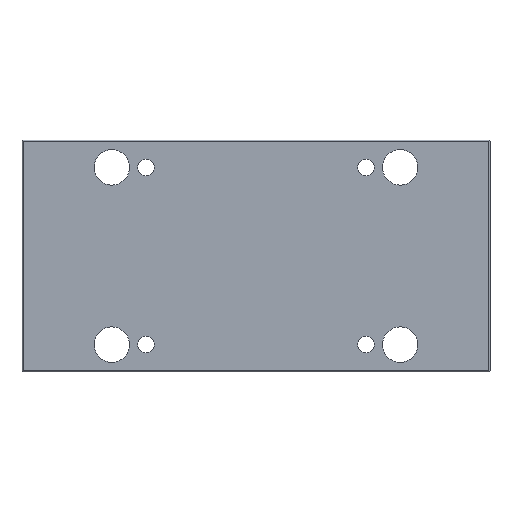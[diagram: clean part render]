
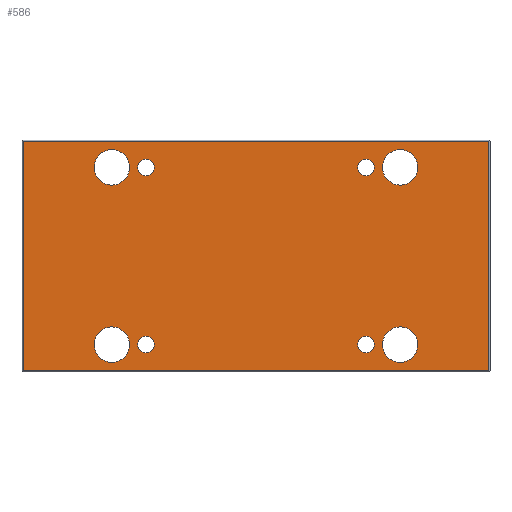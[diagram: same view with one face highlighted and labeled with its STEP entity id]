
A CAD part, front view. The second image highlights one B-rep face of the part: STEP entity #586.
In plain terms, the highlighted planar face has unit normal (0, -1, 0).
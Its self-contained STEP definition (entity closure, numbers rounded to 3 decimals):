
#40=CIRCLE('',#642,7.);
#41=CIRCLE('',#643,7.);
#42=CIRCLE('',#644,7.);
#43=CIRCLE('',#645,7.);
#44=CIRCLE('',#646,15.);
#45=CIRCLE('',#647,15.);
#46=CIRCLE('',#648,15.);
#47=CIRCLE('',#649,15.);
#108=ORIENTED_EDGE('',*,*,#244,.F.);
#109=ORIENTED_EDGE('',*,*,#245,.F.);
#110=ORIENTED_EDGE('',*,*,#246,.F.);
#111=ORIENTED_EDGE('',*,*,#247,.F.);
#112=ORIENTED_EDGE('',*,*,#248,.F.);
#113=ORIENTED_EDGE('',*,*,#249,.F.);
#114=ORIENTED_EDGE('',*,*,#250,.F.);
#115=ORIENTED_EDGE('',*,*,#251,.F.);
#116=ORIENTED_EDGE('',*,*,#252,.F.);
#117=ORIENTED_EDGE('',*,*,#238,.F.);
#118=ORIENTED_EDGE('',*,*,#253,.T.);
#119=ORIENTED_EDGE('',*,*,#240,.T.);
#238=EDGE_CURVE('',#303,#300,#358,.T.);
#240=EDGE_CURVE('',#305,#304,#360,.T.);
#244=EDGE_CURVE('',#308,#308,#40,.T.);
#245=EDGE_CURVE('',#309,#309,#41,.T.);
#246=EDGE_CURVE('',#310,#310,#42,.T.);
#247=EDGE_CURVE('',#311,#311,#43,.T.);
#248=EDGE_CURVE('',#312,#312,#44,.T.);
#249=EDGE_CURVE('',#313,#313,#45,.T.);
#250=EDGE_CURVE('',#314,#314,#46,.T.);
#251=EDGE_CURVE('',#315,#315,#47,.T.);
#252=EDGE_CURVE('',#300,#304,#364,.T.);
#253=EDGE_CURVE('',#303,#305,#365,.T.);
#300=VERTEX_POINT('',#920);
#303=VERTEX_POINT('',#926);
#304=VERTEX_POINT('',#930);
#305=VERTEX_POINT('',#932);
#308=VERTEX_POINT('',#940);
#309=VERTEX_POINT('',#942);
#310=VERTEX_POINT('',#944);
#311=VERTEX_POINT('',#946);
#312=VERTEX_POINT('',#948);
#313=VERTEX_POINT('',#950);
#314=VERTEX_POINT('',#952);
#315=VERTEX_POINT('',#954);
#358=LINE('',#927,#406);
#360=LINE('',#931,#408);
#364=LINE('',#955,#412);
#365=LINE('',#956,#413);
#406=VECTOR('',#745,1000.);
#408=VECTOR('',#749,1000.);
#412=VECTOR('',#771,1000.);
#413=VECTOR('',#772,1000.);
#440=EDGE_LOOP('',(#108));
#441=EDGE_LOOP('',(#109));
#442=EDGE_LOOP('',(#110));
#443=EDGE_LOOP('',(#111));
#444=EDGE_LOOP('',(#112));
#445=EDGE_LOOP('',(#113));
#446=EDGE_LOOP('',(#114));
#447=EDGE_LOOP('',(#115));
#448=EDGE_LOOP('',(#116,#117,#118,#119));
#506=FACE_BOUND('',#440,.T.);
#507=FACE_BOUND('',#441,.T.);
#508=FACE_BOUND('',#442,.T.);
#509=FACE_BOUND('',#443,.T.);
#510=FACE_BOUND('',#444,.T.);
#511=FACE_BOUND('',#445,.T.);
#512=FACE_BOUND('',#446,.T.);
#513=FACE_BOUND('',#447,.T.);
#514=FACE_BOUND('',#448,.T.);
#564=PLANE('',#641);
#586=ADVANCED_FACE('',(#506,#507,#508,#509,#510,#511,#512,#513,#514),#564,
 .F.);
#641=AXIS2_PLACEMENT_3D('',#938,#753,#754);
#642=AXIS2_PLACEMENT_3D('',#939,#755,#756);
#643=AXIS2_PLACEMENT_3D('',#941,#757,#758);
#644=AXIS2_PLACEMENT_3D('',#943,#759,#760);
#645=AXIS2_PLACEMENT_3D('',#945,#761,#762);
#646=AXIS2_PLACEMENT_3D('',#947,#763,#764);
#647=AXIS2_PLACEMENT_3D('',#949,#765,#766);
#648=AXIS2_PLACEMENT_3D('',#951,#767,#768);
#649=AXIS2_PLACEMENT_3D('',#953,#769,#770);
#745=DIRECTION('',(0.,0.,-1.));
#749=DIRECTION('',(0.,0.,-1.));
#753=DIRECTION('',(0.,1.,0.));
#754=DIRECTION('',(0.,0.,1.));
#755=DIRECTION('',(0.,-1.,0.));
#756=DIRECTION('',(0.,0.,-1.));
#757=DIRECTION('',(0.,-1.,0.));
#758=DIRECTION('',(0.,0.,-1.));
#759=DIRECTION('',(0.,-1.,0.));
#760=DIRECTION('',(0.,0.,-1.));
#761=DIRECTION('',(0.,-1.,0.));
#762=DIRECTION('',(0.,0.,-1.));
#763=DIRECTION('',(0.,-1.,0.));
#764=DIRECTION('',(0.,0.,-1.));
#765=DIRECTION('',(0.,-1.,0.));
#766=DIRECTION('',(0.,0.,-1.));
#767=DIRECTION('',(0.,-1.,0.));
#768=DIRECTION('',(0.,0.,-1.));
#769=DIRECTION('',(0.,-1.,0.));
#770=DIRECTION('',(0.,0.,-1.));
#771=DIRECTION('',(-1.,0.,0.));
#772=DIRECTION('',(-1.,0.,0.));
#920=CARTESIAN_POINT('',(197.,0.,-97.));
#926=CARTESIAN_POINT('',(197.,0.,97.));
#927=CARTESIAN_POINT('',(197.,0.,98.));
#930=CARTESIAN_POINT('',(-197.,0.,-97.));
#931=CARTESIAN_POINT('',(-197.,0.,98.));
#932=CARTESIAN_POINT('',(-197.,0.,97.));
#938=CARTESIAN_POINT('',(-197.,0.,98.));
#939=CARTESIAN_POINT('',(93.,0.,75.));
#940=CARTESIAN_POINT('',(93.,0.,68.));
#941=CARTESIAN_POINT('',(-93.,0.,75.));
#942=CARTESIAN_POINT('',(-93.,0.,68.));
#943=CARTESIAN_POINT('',(93.,0.,-75.));
#944=CARTESIAN_POINT('',(93.,0.,-82.));
#945=CARTESIAN_POINT('',(-93.,0.,-75.));
#946=CARTESIAN_POINT('',(-93.,0.,-82.));
#947=CARTESIAN_POINT('',(122.,0.,75.));
#948=CARTESIAN_POINT('',(122.,0.,60.));
#949=CARTESIAN_POINT('',(-122.,0.,75.));
#950=CARTESIAN_POINT('',(-122.,0.,60.));
#951=CARTESIAN_POINT('',(122.,0.,-75.));
#952=CARTESIAN_POINT('',(122.,0.,-90.));
#953=CARTESIAN_POINT('',(-122.,0.,-75.));
#954=CARTESIAN_POINT('',(-122.,0.,-90.));
#955=CARTESIAN_POINT('',(198.,0.,-97.));
#956=CARTESIAN_POINT('',(198.,0.,97.));
